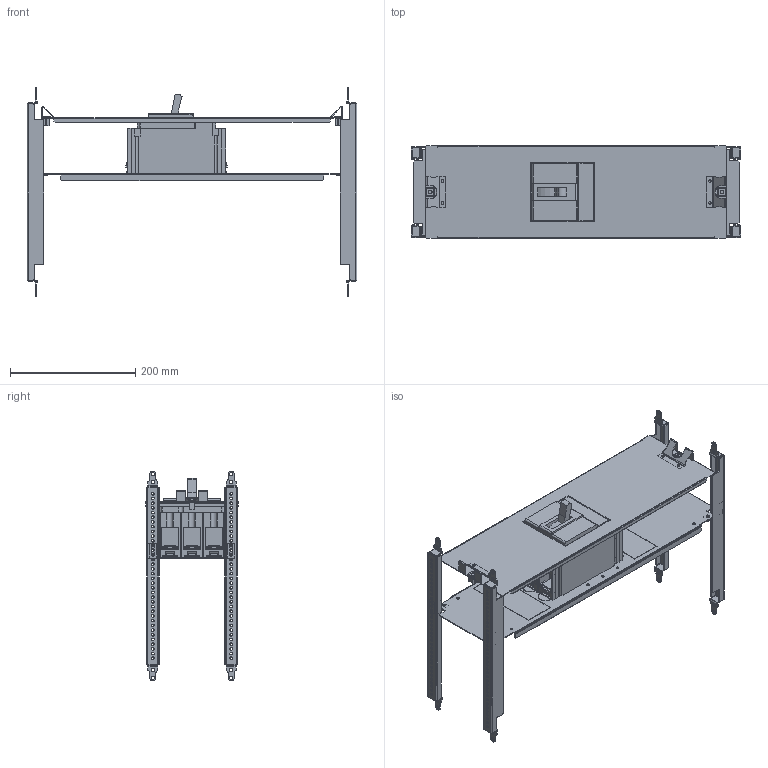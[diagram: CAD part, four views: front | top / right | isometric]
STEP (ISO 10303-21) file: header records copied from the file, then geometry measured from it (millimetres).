
FILE_DESCRIPTION(('CAx-IF Rec.Pracs.---Model Styling and Organization---1.2---2011-12-15','CAx-IF Rec.Pracs.---Geometric and Assembly Validation Properties---4.1---2014-06-16','CAx-IF Rec.Pracs.---PMI Polyline Presentation---2.0---2013-05-24'),'2;1');
FILE_NAME('R5PKIB7H62213 (F).stp','2021-07-29T03:06:47+03:00',(''),(''),'STEP Interface 4.4 by CT CoreTechnologie','3D_Evolution4.4 by CT CoreTechnologie','');
FILE_SCHEMA(('AUTOMOTIVE_DESIGN { 1 0 10303 214 1 1 1 1 }'));
Length unit declared in the file: millimetre
Products named in the file (1): R5PKIB7H62213 (F)
Bounding box: 526 x 148 x 335 mm (x, y, z)
Surface area: 603802.7 mm2 (no closed solid volume)
Topology: 0 solids, 48 shells, 1887 faces, 5578 edges, 3795 vertices
Faces by surface type: plane 1184, cylinder 636, bspline 67
Entity records: 64757 total; most frequent: CARTESIAN_POINT 12233, ORIENTED_EDGE 11136, DIRECTION 10546, EDGE_CURVE 5568, VECTOR 4196, LINE 4196, VERTEX_POINT 3812, AXIS2_PLACEMENT_3D 3175
